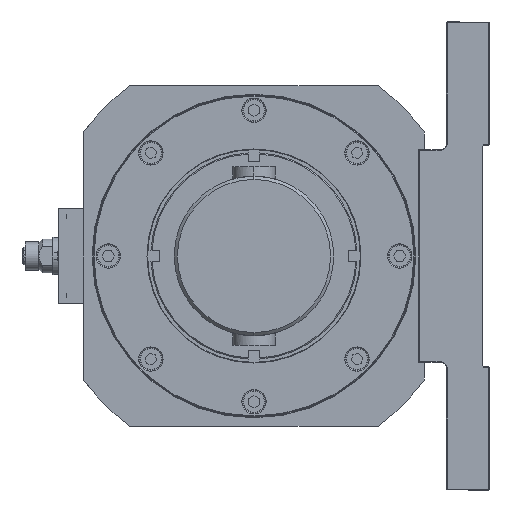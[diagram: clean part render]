
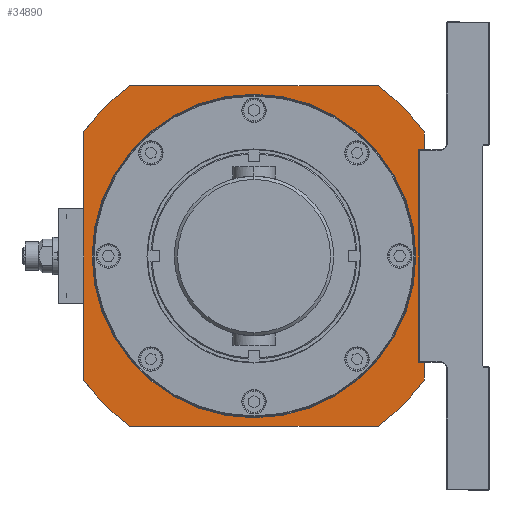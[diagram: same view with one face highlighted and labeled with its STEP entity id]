
A CAD part, left-side view. The second image highlights one B-rep face of the part: STEP entity #34890.
In plain terms, the highlighted planar face has unit normal (-1, 0, 0).
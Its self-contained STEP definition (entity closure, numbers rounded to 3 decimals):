
#111 = ORIENTED_EDGE ( 'NONE', *, *, #1603, .F. ) ;
#1038 = VERTEX_POINT ( 'NONE', #35114 ) ;
#1125 = VERTEX_POINT ( 'NONE', #18800 ) ;
#1603 = EDGE_CURVE ( 'NONE', #25208, #1038, #15400, .T. ) ;
#1721 = DIRECTION ( 'NONE',  ( 0., 0., -1. ) ) ;
#1781 = DIRECTION ( 'NONE',  ( 0., -1., 0. ) ) ;
#2466 = DIRECTION ( 'NONE',  ( 0., 0., -1. ) ) ;
#2799 = DIRECTION ( 'NONE',  ( 0., 0., 1. ) ) ;
#3130 = CARTESIAN_POINT ( 'NONE',  ( -70.5, 0., 76.05 ) ) ;
#3190 = ORIENTED_EDGE ( 'NONE', *, *, #8959, .F. ) ;
#4611 = CARTESIAN_POINT ( 'NONE',  ( -70.5, 58.318, 80. ) ) ;
#5192 = CARTESIAN_POINT ( 'NONE',  ( -70.5, 0., 0. ) ) ;
#5337 = CARTESIAN_POINT ( 'NONE',  ( -70.5, -80., -58.318 ) ) ;
#6264 = DIRECTION ( 'NONE',  ( 0., 0., -1. ) ) ;
#6304 = DIRECTION ( 'NONE',  ( 0., 0., -1. ) ) ;
#6352 = CIRCLE ( 'NONE', #35775, 99. ) ;
#6643 = CARTESIAN_POINT ( 'NONE',  ( -70.5, 0., 0. ) ) ;
#6679 = DIRECTION ( 'NONE',  ( 1., 0., 0. ) ) ;
#6924 = CARTESIAN_POINT ( 'NONE',  ( -70.5, 58.318, -80. ) ) ;
#7087 = VERTEX_POINT ( 'NONE', #3130 ) ;
#7716 = DIRECTION ( 'NONE',  ( 0., 0., -1. ) ) ;
#8091 = EDGE_CURVE ( 'NONE', #7087, #10728, #26643, .T. ) ;
#8478 = CARTESIAN_POINT ( 'NONE',  ( -70.5, 80., 58.318 ) ) ;
#8839 = AXIS2_PLACEMENT_3D ( 'NONE', #38067, #22793, #28665 ) ;
#8959 = EDGE_CURVE ( 'NONE', #12768, #34107, #6352, .T. ) ;
#9008 = EDGE_CURVE ( 'NONE', #35530, #25208, #24574, .T. ) ;
#9011 = ORIENTED_EDGE ( 'NONE', *, *, #12084, .F. ) ;
#9220 = DIRECTION ( 'NONE',  ( 0., 0., -1. ) ) ;
#9437 = DIRECTION ( 'NONE',  ( 1., 0., 0. ) ) ;
#9696 = VECTOR ( 'NONE', #2799, 1000. ) ;
#9850 = LINE ( 'NONE', #31642, #12427 ) ;
#9858 = DIRECTION ( 'NONE',  ( 0., 1., 0. ) ) ;
#10385 = ORIENTED_EDGE ( 'NONE', *, *, #32445, .F. ) ;
#10728 = VERTEX_POINT ( 'NONE', #33222 ) ;
#11112 = AXIS2_PLACEMENT_3D ( 'NONE', #21404, #14698, #34168 ) ;
#12084 = EDGE_CURVE ( 'NONE', #23509, #36943, #21813, .T. ) ;
#12360 = ORIENTED_EDGE ( 'NONE', *, *, #31569, .F. ) ;
#12427 = VECTOR ( 'NONE', #41473, 1000. ) ;
#12431 = CIRCLE ( 'NONE', #29813, 99. ) ;
#12768 = VERTEX_POINT ( 'NONE', #22583 ) ;
#12794 = FACE_OUTER_BOUND ( 'NONE', #33146, .T. ) ;
#13525 = EDGE_CURVE ( 'NONE', #33852, #35530, #25857, .T. ) ;
#13779 = EDGE_CURVE ( 'NONE', #1038, #34956, #9850, .T. ) ;
#14295 = DIRECTION ( 'NONE',  ( 0., 0., -1. ) ) ;
#14457 = DIRECTION ( 'NONE',  ( 0., -1., 0. ) ) ;
#14698 = DIRECTION ( 'NONE',  ( 1., 0., 0. ) ) ;
#15400 = LINE ( 'NONE', #18961, #20790 ) ;
#16780 = ORIENTED_EDGE ( 'NONE', *, *, #40852, .T. ) ;
#17675 = EDGE_LOOP ( 'NONE', ( #23027, #16780 ) ) ;
#17788 = EDGE_CURVE ( 'NONE', #36943, #22023, #24256, .T. ) ;
#18800 = CARTESIAN_POINT ( 'NONE',  ( -70.5, 58.318, 80. ) ) ;
#18961 = CARTESIAN_POINT ( 'NONE',  ( -70.5, -77.5, 50. ) ) ;
#19135 = AXIS2_PLACEMENT_3D ( 'NONE', #22655, #9437, #6304 ) ;
#19974 = VECTOR ( 'NONE', #9858, 1000. ) ;
#20296 = DIRECTION ( 'NONE',  ( 1., 0., 0. ) ) ;
#20543 = LINE ( 'NONE', #4611, #36251 ) ;
#20790 = VECTOR ( 'NONE', #25260, 1000. ) ;
#21075 = VECTOR ( 'NONE', #14295, 1000. ) ;
#21404 = CARTESIAN_POINT ( 'NONE',  ( -70.5, 0., 0. ) ) ;
#21417 = DIRECTION ( 'NONE',  ( 1., 0., 0. ) ) ;
#21813 = LINE ( 'NONE', #31841, #23144 ) ;
#22023 = VERTEX_POINT ( 'NONE', #24511 ) ;
#22033 = PLANE ( 'NONE',  #19135 ) ;
#22583 = CARTESIAN_POINT ( 'NONE',  ( -70.5, 58.318, -80. ) ) ;
#22630 = ORIENTED_EDGE ( 'NONE', *, *, #17788, .F. ) ;
#22655 = CARTESIAN_POINT ( 'NONE',  ( -70.5, 0., 0. ) ) ;
#22791 = VERTEX_POINT ( 'NONE', #36999 ) ;
#22793 = DIRECTION ( 'NONE',  ( 1., 0., 0. ) ) ;
#22966 = ORIENTED_EDGE ( 'NONE', *, *, #9008, .F. ) ;
#23027 = ORIENTED_EDGE ( 'NONE', *, *, #8091, .T. ) ;
#23069 = VECTOR ( 'NONE', #1781, 1000. ) ;
#23144 = VECTOR ( 'NONE', #9220, 1000. ) ;
#23509 = VERTEX_POINT ( 'NONE', #27286 ) ;
#24256 = CIRCLE ( 'NONE', #8839, 99. ) ;
#24511 = CARTESIAN_POINT ( 'NONE',  ( -70.5, -58.318, -80. ) ) ;
#24574 = LINE ( 'NONE', #30622, #21075 ) ;
#24822 = CARTESIAN_POINT ( 'NONE',  ( -70.5, -58.318, 80. ) ) ;
#25031 = EDGE_CURVE ( 'NONE', #1125, #33852, #20543, .T. ) ;
#25208 = VERTEX_POINT ( 'NONE', #34166 ) ;
#25260 = DIRECTION ( 'NONE',  ( 0., 1., 0. ) ) ;
#25557 = CARTESIAN_POINT ( 'NONE',  ( -70.5, 0., 0. ) ) ;
#25857 = CIRCLE ( 'NONE', #11112, 99. ) ;
#26553 = ORIENTED_EDGE ( 'NONE', *, *, #13525, .F. ) ;
#26643 = CIRCLE ( 'NONE', #29977, 76.05 ) ;
#26676 = CARTESIAN_POINT ( 'NONE',  ( -70.5, 80., -58.318 ) ) ;
#27286 = CARTESIAN_POINT ( 'NONE',  ( -70.5, -80., -50. ) ) ;
#27294 = CARTESIAN_POINT ( 'NONE',  ( -70.5, 0., 0. ) ) ;
#28665 = DIRECTION ( 'NONE',  ( 0., 0., -1. ) ) ;
#28864 = EDGE_CURVE ( 'NONE', #34956, #23509, #30477, .T. ) ;
#29336 = CIRCLE ( 'NONE', #40030, 76.05 ) ;
#29354 = LINE ( 'NONE', #6924, #19974 ) ;
#29813 = AXIS2_PLACEMENT_3D ( 'NONE', #25557, #6679, #6264 ) ;
#29977 = AXIS2_PLACEMENT_3D ( 'NONE', #5192, #20296, #7716 ) ;
#30477 = LINE ( 'NONE', #40118, #23069 ) ;
#30622 = CARTESIAN_POINT ( 'NONE',  ( -70.5, -80., 58.318 ) ) ;
#31569 = EDGE_CURVE ( 'NONE', #22791, #1125, #12431, .T. ) ;
#31642 = CARTESIAN_POINT ( 'NONE',  ( -70.5, -77.5, 50. ) ) ;
#31840 = ORIENTED_EDGE ( 'NONE', *, *, #25031, .F. ) ;
#31841 = CARTESIAN_POINT ( 'NONE',  ( -70.5, -80., -50. ) ) ;
#31988 = DIRECTION ( 'NONE',  ( 1., 0., 0. ) ) ;
#32445 = EDGE_CURVE ( 'NONE', #34107, #22791, #37377, .T. ) ;
#32875 = ORIENTED_EDGE ( 'NONE', *, *, #40534, .F. ) ;
#33146 = EDGE_LOOP ( 'NONE', ( #26553, #31840, #12360, #10385, #3190, #32875, #22630, #9011, #36726, #38321, #111, #22966 ) ) ;
#33222 = CARTESIAN_POINT ( 'NONE',  ( -70.5, 0., -76.05 ) ) ;
#33259 = CARTESIAN_POINT ( 'NONE',  ( -70.5, -80., 58.318 ) ) ;
#33852 = VERTEX_POINT ( 'NONE', #24822 ) ;
#34107 = VERTEX_POINT ( 'NONE', #26676 ) ;
#34166 = CARTESIAN_POINT ( 'NONE',  ( -70.5, -80., 50. ) ) ;
#34168 = DIRECTION ( 'NONE',  ( 0., 0., -1. ) ) ;
#34783 = CARTESIAN_POINT ( 'NONE',  ( -70.5, -77.5, -50. ) ) ;
#34890 = ADVANCED_FACE ( 'NONE', ( #34994, #12794 ), #22033, .F. ) ;
#34956 = VERTEX_POINT ( 'NONE', #34783 ) ;
#34994 = FACE_BOUND ( 'NONE', #17675, .T. ) ;
#35114 = CARTESIAN_POINT ( 'NONE',  ( -70.5, -77.5, 50. ) ) ;
#35530 = VERTEX_POINT ( 'NONE', #33259 ) ;
#35775 = AXIS2_PLACEMENT_3D ( 'NONE', #27294, #21417, #1721 ) ;
#36251 = VECTOR ( 'NONE', #14457, 1000. ) ;
#36726 = ORIENTED_EDGE ( 'NONE', *, *, #28864, .F. ) ;
#36943 = VERTEX_POINT ( 'NONE', #5337 ) ;
#36999 = CARTESIAN_POINT ( 'NONE',  ( -70.5, 80., 58.318 ) ) ;
#37377 = LINE ( 'NONE', #8478, #9696 ) ;
#38067 = CARTESIAN_POINT ( 'NONE',  ( -70.5, 0., 0. ) ) ;
#38321 = ORIENTED_EDGE ( 'NONE', *, *, #13779, .F. ) ;
#40030 = AXIS2_PLACEMENT_3D ( 'NONE', #6643, #31988, #2466 ) ;
#40118 = CARTESIAN_POINT ( 'NONE',  ( -70.5, -77.5, -50. ) ) ;
#40534 = EDGE_CURVE ( 'NONE', #22023, #12768, #29354, .T. ) ;
#40852 = EDGE_CURVE ( 'NONE', #10728, #7087, #29336, .T. ) ;
#41473 = DIRECTION ( 'NONE',  ( 0., 0., -1. ) ) ;
